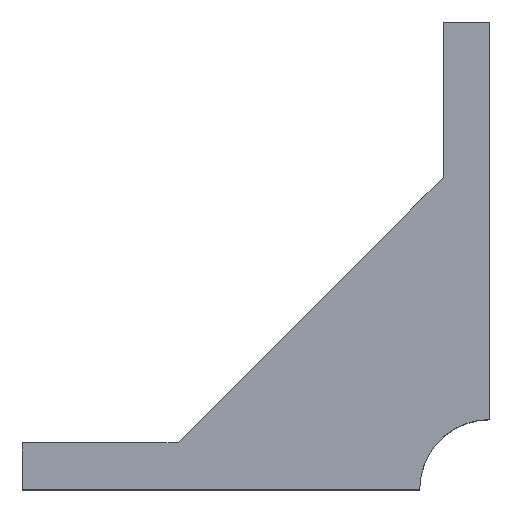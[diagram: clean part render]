
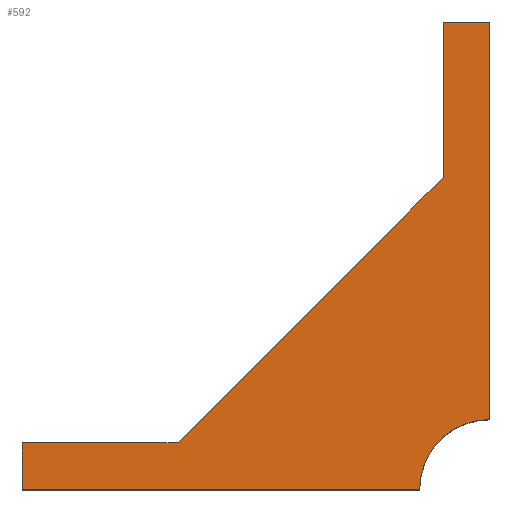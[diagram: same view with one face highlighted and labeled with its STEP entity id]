
A CAD part, top view. The second image highlights one B-rep face of the part: STEP entity #592.
In plain terms, the highlighted planar face has unit normal (0, 0, 1).
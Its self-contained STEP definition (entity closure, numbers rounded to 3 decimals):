
#25=PLANE('',#645);
#61=LINE('',#906,#125);
#62=LINE('',#909,#126);
#63=LINE('',#913,#127);
#64=LINE('',#915,#128);
#65=LINE('',#917,#129);
#66=LINE('',#919,#130);
#67=LINE('',#921,#131);
#125=VECTOR('',#740,1000.);
#126=VECTOR('',#741,1000.);
#127=VECTOR('',#744,1000.);
#128=VECTOR('',#745,1000.);
#129=VECTOR('',#746,1000.);
#130=VECTOR('',#747,1000.);
#131=VECTOR('',#748,1000.);
#208=ORIENTED_EDGE('',*,*,#367,.T.);
#209=ORIENTED_EDGE('',*,*,#368,.F.);
#210=ORIENTED_EDGE('',*,*,#369,.T.);
#211=ORIENTED_EDGE('',*,*,#370,.F.);
#212=ORIENTED_EDGE('',*,*,#371,.F.);
#213=ORIENTED_EDGE('',*,*,#372,.T.);
#214=ORIENTED_EDGE('',*,*,#373,.T.);
#215=ORIENTED_EDGE('',*,*,#374,.T.);
#367=EDGE_CURVE('',#442,#443,#61,.T.);
#368=EDGE_CURVE('',#444,#443,#62,.T.);
#369=EDGE_CURVE('',#444,#445,#486,.T.);
#370=EDGE_CURVE('',#446,#445,#63,.T.);
#371=EDGE_CURVE('',#447,#446,#64,.T.);
#372=EDGE_CURVE('',#447,#448,#65,.T.);
#373=EDGE_CURVE('',#448,#449,#66,.T.);
#374=EDGE_CURVE('',#449,#442,#67,.T.);
#442=VERTEX_POINT('',#907);
#443=VERTEX_POINT('',#908);
#444=VERTEX_POINT('',#910);
#445=VERTEX_POINT('',#912);
#446=VERTEX_POINT('',#914);
#447=VERTEX_POINT('',#916);
#448=VERTEX_POINT('',#918);
#449=VERTEX_POINT('',#920);
#486=CIRCLE('',#646,9.);
#506=EDGE_LOOP('',(#208,#209,#210,#211,#212,#213,#214,#215));
#544=FACE_BOUND('',#506,.T.);
#592=ADVANCED_FACE('',(#544),#25,.T.);
#645=AXIS2_PLACEMENT_3D('',#905,#738,#739);
#646=AXIS2_PLACEMENT_3D('',#911,#742,#743);
#738=DIRECTION('',(0.,0.,1.));
#739=DIRECTION('',(1.,0.,0.));
#740=DIRECTION('',(0.,-1.,0.));
#741=DIRECTION('',(-1.,0.,0.));
#742=DIRECTION('',(0.,0.,-1.));
#743=DIRECTION('',(-1.,0.,0.));
#744=DIRECTION('',(0.,-1.,0.));
#745=DIRECTION('',(1.,0.,0.));
#746=DIRECTION('',(0.,-1.,0.));
#747=DIRECTION('',(-0.707,-0.707,0.));
#748=DIRECTION('',(-1.,0.,0.));
#905=CARTESIAN_POINT('',(11.863,-11.339,27.));
#906=CARTESIAN_POINT('',(-18.137,-11.339,27.));
#907=CARTESIAN_POINT('',(-18.137,-8.339,27.));
#908=CARTESIAN_POINT('',(-18.137,-14.339,27.));
#909=CARTESIAN_POINT('',(-18.137,-14.339,27.));
#910=CARTESIAN_POINT('',(32.863,-14.339,27.));
#911=CARTESIAN_POINT('',(41.863,-14.339,27.));
#912=CARTESIAN_POINT('',(41.863,-5.339,27.));
#913=CARTESIAN_POINT('',(41.863,-14.339,27.));
#914=CARTESIAN_POINT('',(41.863,45.661,27.));
#915=CARTESIAN_POINT('',(35.863,45.661,27.));
#916=CARTESIAN_POINT('',(35.863,45.661,27.));
#917=CARTESIAN_POINT('',(35.863,-11.339,27.));
#918=CARTESIAN_POINT('',(35.863,25.661,27.));
#919=CARTESIAN_POINT('',(5.363,-4.839,27.));
#920=CARTESIAN_POINT('',(1.863,-8.339,27.));
#921=CARTESIAN_POINT('',(11.863,-8.339,27.));
